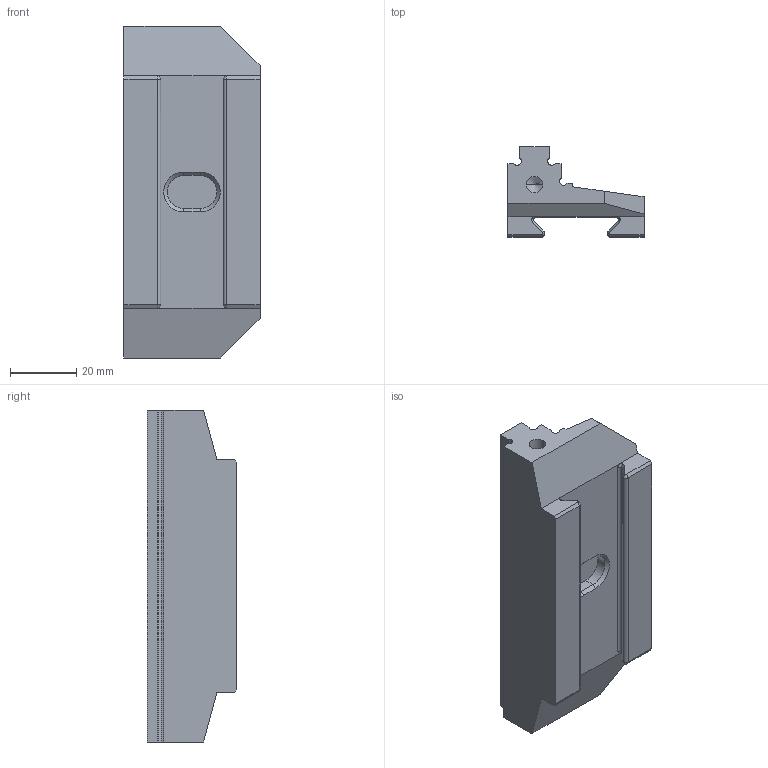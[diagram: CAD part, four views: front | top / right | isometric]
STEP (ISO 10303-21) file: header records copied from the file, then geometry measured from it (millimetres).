
FILE_DESCRIPTION (( 'STEP AP214' ), '1' );
FILE_NAME ('6921544030031.STEP', '2017-12-21T13:10:50', ( '' ), ( '' ), 'SwSTEP 2.0', 'SolidWorks 2016', '' );
FILE_SCHEMA (( 'AUTOMOTIVE_DESIGN' ));
Length unit declared in the file: millimetre
Products named in the file (1): 6921544030031
Bounding box: 41 x 27 x 100 mm (x, y, z)
Volume: 53096.8 mm3; surface area: 15718.1 mm2
Topology: 1 solids, 1 shells, 249 faces, 652 edges, 424 vertices
Faces by surface type: plane 127, bspline 87, cone 18, cylinder 17
Entity records: 12920 total; most frequent: CARTESIAN_POINT 7301, ORIENTED_EDGE 1296, DIRECTION 846, EDGE_CURVE 648, VERTEX_POINT 424, VECTOR 420, LINE 420, EDGE_LOOP 272
